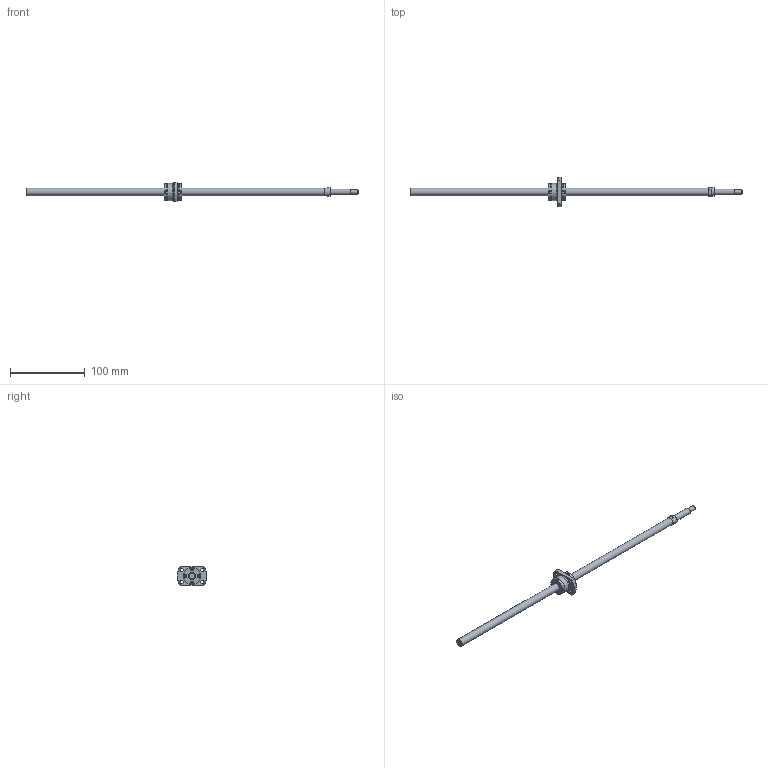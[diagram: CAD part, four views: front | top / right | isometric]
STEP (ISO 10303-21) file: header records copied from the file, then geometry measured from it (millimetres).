
FILE_DESCRIPTION(/* description */ ('STEP AP214'),/* implementation_level */ '2;1');
FILE_NAME(/* name */ 'SRT1010-396R445C7A0X(185Processing)',/* time_stamp */ '2026-08-06T15:10:55+02:00',/* author */ ('License CC BY-ND 4.0'),/* organization */ ('CADENAS'),/* preprocessor_version */ 'ST-DEVELOPER v20',/* originating_system */ 'PARTsolutions',/* authorisation */ ' ');
FILE_SCHEMA (('AUTOMOTIVE_DESIGN {1 0 10303 214 3 1 1}'));
Length unit declared in the file: millimetre
Products named in the file (3): SRT1010-396R445C7A0X(185Processing); SRT1010-396R470ACt7Processing66Shaft; SRT1010Nut
Assembly tree (2 placements, depth 2):
  SRT1010-396R445C7A0X(185Processing)
    SRT1010-396R470ACt7Processing66Shaft
    SRT1010Nut
Bounding box: 445 x 40 x 25 mm (x, y, z)
Volume: 43856.8 mm3; surface area: 18709.1 mm2
Topology: 2 solids, 2 shells, 150 faces, 360 edges, 236 vertices
Faces by surface type: plane 106, cylinder 32, cone 11, torus 1
Full cylindrical faces by diameter (mm): 3.8 x8, 4.5 x4, 6 x1, 8 x1, 10 x2, 11.5 x1, 22.5 x3, 23 x2
Entity records: 4267 total; most frequent: CARTESIAN_POINT 737, DIRECTION 718, ORIENTED_EDGE 654, EDGE_CURVE 327, AXIS2_PLACEMENT_3D 246, VERTEX_POINT 233, LINE 226, VECTOR 226
